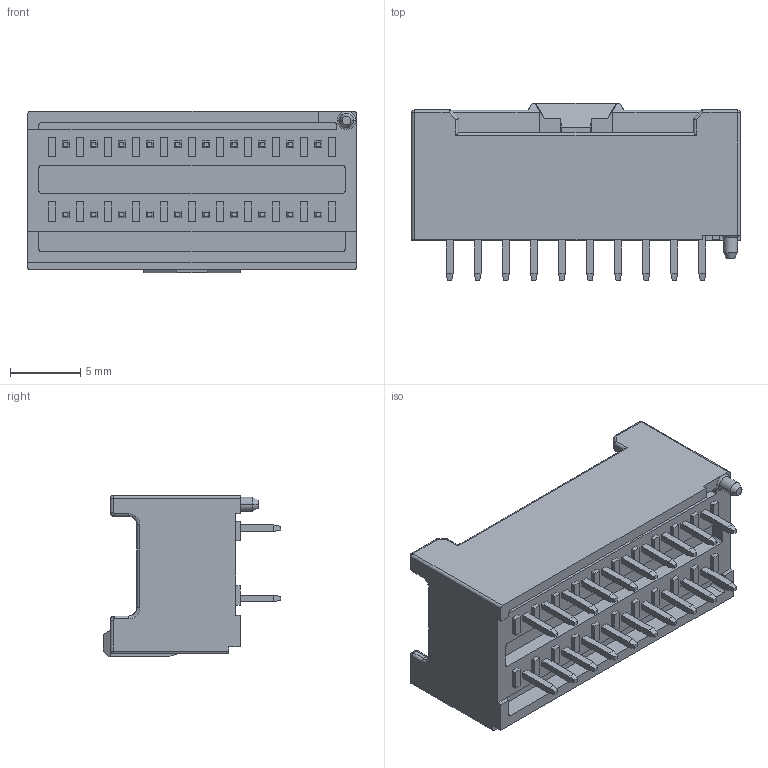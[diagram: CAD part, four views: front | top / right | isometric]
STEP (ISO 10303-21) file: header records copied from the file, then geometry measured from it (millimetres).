
FILE_DESCRIPTION (( 'STEP AP203' ), '1' );
FILE_NAME ('GT-A2031WVD-220WBT01.STEP', '2025-12-28T06:09:37', ( '' ), ( '' ), 'SwSTEP 2.0', 'SolidWorks 2020', '' );
FILE_SCHEMA (( 'CONFIG_CONTROL_DESIGN' ));
Length unit declared in the file: millimetre
Products named in the file (1): GT-A2031WVD-220WBT01
Bounding box: 23.4 x 12.65 x 11.5 mm (x, y, z)
Volume: 834.6 mm3; surface area: 2051.4 mm2
Topology: 1 solids, 1 shells, 1143 faces, 2829 edges, 1753 vertices
Faces by surface type: plane 932, cylinder 96, bspline 89, torus 14, sphere 6, cone 6
Entity records: 37036 total; most frequent: CARTESIAN_POINT 10805, ORIENTED_EDGE 5614, DIRECTION 4826, EDGE_CURVE 2807, VECTOR 2410, LINE 2410, VERTEX_POINT 1753, EDGE_LOOP 1232
